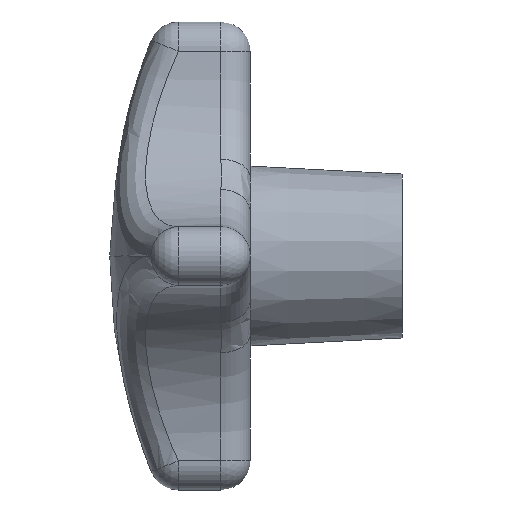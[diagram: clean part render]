
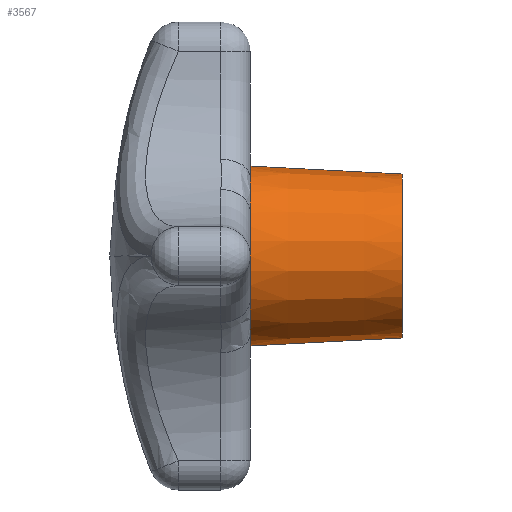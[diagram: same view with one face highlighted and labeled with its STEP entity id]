
A CAD part, left-side view. The second image highlights one B-rep face of the part: STEP entity #3567.
In plain terms, the highlighted conical face has half-angle 3 degrees and reference radius 7 mm.
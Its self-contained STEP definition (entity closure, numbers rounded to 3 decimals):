
#146 = VERTEX_POINT ( 'NONE', #504 ) ;
#179 = VERTEX_POINT ( 'NONE', #3632 ) ;
#180 = EDGE_CURVE ( 'NONE', #185, #179, #3533, .T. ) ;
#182 = VERTEX_POINT ( 'NONE', #3637 ) ;
#185 = VERTEX_POINT ( 'NONE', #3633 ) ;
#202 = EDGE_CURVE ( 'NONE', #182, #146, #3651, .T. ) ;
#504 = CARTESIAN_POINT ( 'NONE',  ( 0., 0., 7.681 ) ) ;
#2185 = CARTESIAN_POINT ( 'NONE',  ( -3.71, 0., -6.726 ) ) ;
#2206 = CARTESIAN_POINT ( 'NONE',  ( 0., 0., 0. ) ) ;
#2207 = AXIS2_PLACEMENT_3D ( 'NONE', #2206, #2271, #2270 ) ;
#2208 = CIRCLE ( 'NONE', #2207, 7.681 ) ;
#2216 = CARTESIAN_POINT ( 'NONE',  ( -3.71, 0., 6.726 ) ) ;
#2222 = DIRECTION ( 'NONE',  ( 0., 0., 1. ) ) ;
#2223 = DIRECTION ( 'NONE',  ( 0., 1., 0. ) ) ;
#2224 = AXIS2_PLACEMENT_3D ( 'NONE', #2231, #2223, #2222 ) ;
#2225 = CIRCLE ( 'NONE', #2224, 7.681 ) ;
#2231 = CARTESIAN_POINT ( 'NONE',  ( 0., 0., 0. ) ) ;
#2269 = CARTESIAN_POINT ( 'NONE',  ( -6.726, 0., 3.71 ) ) ;
#2270 = DIRECTION ( 'NONE',  ( 0., 0., 1. ) ) ;
#2271 = DIRECTION ( 'NONE',  ( 0., 1., 0. ) ) ;
#2289 = CARTESIAN_POINT ( 'NONE',  ( -6.726, 0., -3.71 ) ) ;
#2337 = CARTESIAN_POINT ( 'NONE',  ( 0., -13., 0. ) ) ;
#2338 = CIRCLE ( 'NONE', #2379, 7. ) ;
#2339 = DIRECTION ( 'NONE',  ( 0., 0., 1. ) ) ;
#2340 = DIRECTION ( 'NONE',  ( 0., 1., 0. ) ) ;
#2341 = AXIS2_PLACEMENT_3D ( 'NONE', #2345, #2340, #2339 ) ;
#2342 = CIRCLE ( 'NONE', #2341, 7.681 ) ;
#2345 = CARTESIAN_POINT ( 'NONE',  ( 0., 0., 0. ) ) ;
#2364 = DIRECTION ( 'NONE',  ( 0., 0., 1. ) ) ;
#2365 = DIRECTION ( 'NONE',  ( 0., 1., 0. ) ) ;
#2366 = AXIS2_PLACEMENT_3D ( 'NONE', #2369, #2365, #2364 ) ;
#2369 = CARTESIAN_POINT ( 'NONE',  ( 0., -13., 0. ) ) ;
#2370 = CONICAL_SURFACE ( 'NONE', #2366, 7., 0.052 ) ;
#2371 = FACE_OUTER_BOUND ( 'NONE', #3571, .T. ) ;
#2372 = DIRECTION ( 'NONE',  ( 0., 0., 1. ) ) ;
#2373 = DIRECTION ( 'NONE',  ( 0., 1., 0. ) ) ;
#2374 = CARTESIAN_POINT ( 'NONE',  ( 0., 0., 0. ) ) ;
#2375 = AXIS2_PLACEMENT_3D ( 'NONE', #2374, #2373, #2372 ) ;
#2376 = CIRCLE ( 'NONE', #2375, 7.681 ) ;
#2377 = DIRECTION ( 'NONE',  ( 0., 0., 1. ) ) ;
#2378 = DIRECTION ( 'NONE',  ( 0., 1., 0. ) ) ;
#2379 = AXIS2_PLACEMENT_3D ( 'NONE', #2337, #2378, #2377 ) ;
#2430 = DIRECTION ( 'NONE',  ( 0., 0., 1. ) ) ;
#2431 = DIRECTION ( 'NONE',  ( 0., 1., 0. ) ) ;
#2432 = AXIS2_PLACEMENT_3D ( 'NONE', #2444, #2431, #2430 ) ;
#2433 = CIRCLE ( 'NONE', #2432, 7.681 ) ;
#2444 = CARTESIAN_POINT ( 'NONE',  ( 0., 0., 0. ) ) ;
#3484 = VERTEX_POINT ( 'NONE', #2185 ) ;
#3488 = EDGE_CURVE ( 'NONE', #179, #3484, #2225, .T. ) ;
#3490 = VERTEX_POINT ( 'NONE', #2216 ) ;
#3495 = EDGE_CURVE ( 'NONE', #3490, #146, #2208, .T. ) ;
#3497 = VERTEX_POINT ( 'NONE', #2269 ) ;
#3510 = VERTEX_POINT ( 'NONE', #2289 ) ;
#3520 = ORIENTED_EDGE ( 'NONE', *, *, #4345, .F. ) ;
#3525 = ORIENTED_EDGE ( 'NONE', *, *, #3566, .F. ) ;
#3526 = EDGE_CURVE ( 'NONE', #3497, #3490, #2342, .T. ) ;
#3532 = CARTESIAN_POINT ( 'NONE',  ( 0., -13., -7. ) ) ;
#3533 = LINE ( 'NONE', #3532, #3536 ) ;
#3536 = VECTOR ( 'NONE', #3543, 1000. ) ;
#3541 = ORIENTED_EDGE ( 'NONE', *, *, #3495, .F. ) ;
#3543 = DIRECTION ( 'NONE',  ( 0., 0.999, -0.052 ) ) ;
#3546 = ORIENTED_EDGE ( 'NONE', *, *, #3526, .F. ) ;
#3550 = ORIENTED_EDGE ( 'NONE', *, *, #180, .F. ) ;
#3551 = EDGE_CURVE ( 'NONE', #185, #182, #2338, .T. ) ;
#3552 = ORIENTED_EDGE ( 'NONE', *, *, #3551, .T. ) ;
#3558 = ORIENTED_EDGE ( 'NONE', *, *, #202, .T. ) ;
#3566 = EDGE_CURVE ( 'NONE', #3510, #3497, #2376, .T. ) ;
#3567 = ADVANCED_FACE ( 'NONE', ( #2371 ), #2370, .T. ) ;
#3571 = EDGE_LOOP ( 'NONE', ( #3550, #3552, #3558, #3541, #3546, #3525, #3520, #3614 ) ) ;
#3614 = ORIENTED_EDGE ( 'NONE', *, *, #3488, .F. ) ;
#3632 = CARTESIAN_POINT ( 'NONE',  ( 0., 0., -7.681 ) ) ;
#3633 = CARTESIAN_POINT ( 'NONE',  ( 0., -13., -7. ) ) ;
#3637 = CARTESIAN_POINT ( 'NONE',  ( 0., -13., 7. ) ) ;
#3649 = DIRECTION ( 'NONE',  ( 0., 0.999, 0.052 ) ) ;
#3650 = VECTOR ( 'NONE', #3649, 1000. ) ;
#3651 = LINE ( 'NONE', #3656, #3650 ) ;
#3656 = CARTESIAN_POINT ( 'NONE',  ( 0., -13., 7. ) ) ;
#4345 = EDGE_CURVE ( 'NONE', #3484, #3510, #2433, .T. ) ;
